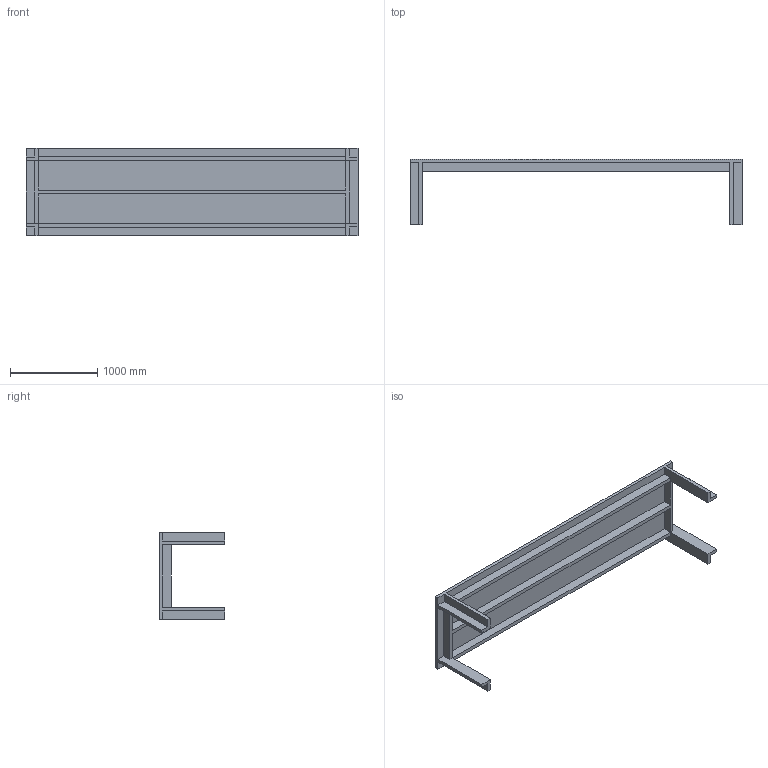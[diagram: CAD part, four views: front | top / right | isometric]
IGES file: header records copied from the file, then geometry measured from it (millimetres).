
Start section: SolidWorks IGES file using analytic representation for surfaces
Global section: file name: C:\Users\David.BDLE\Desktop\Novos produtos\Aires e Mateus Table\501\sales related\501_Table_vb_prmt.IGS; native system: SolidWorks 2016; preprocessor: SolidWorks 2016; author: David; date: 200506.091702; units: millimetre
Bounding box: 3800 x 750 x 1000 mm (x, y, z)
Surface area: 11929187.3 mm2 (no closed solid volume)
Topology: 0 solids, 0 shells, 50 faces, 264 edges, 264 vertices
Faces by surface type: bspline 50
